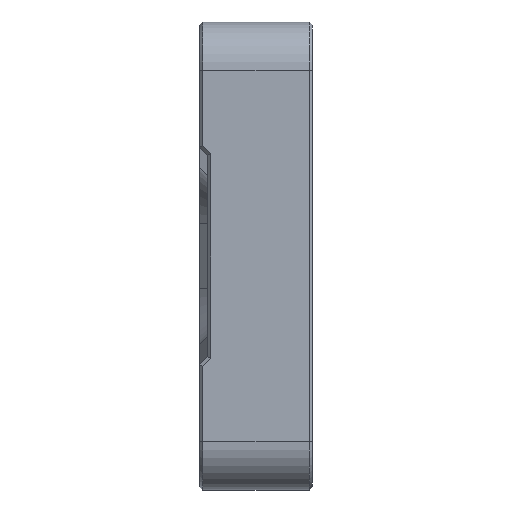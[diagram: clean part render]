
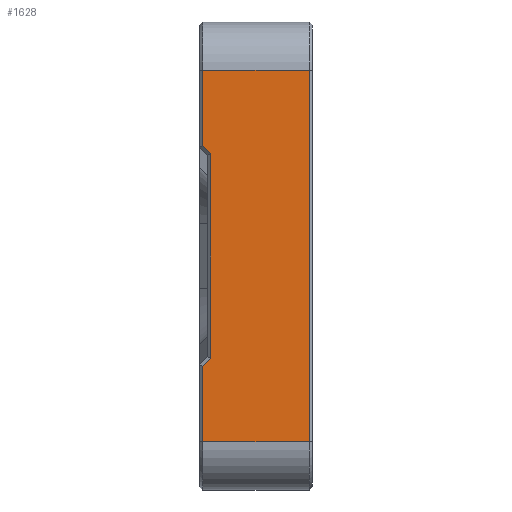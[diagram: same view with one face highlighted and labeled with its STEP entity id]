
A CAD part, left-side view. The second image highlights one B-rep face of the part: STEP entity #1628.
In plain terms, the highlighted planar face has unit normal (-1, 0, 0).
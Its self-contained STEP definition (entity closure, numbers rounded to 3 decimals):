
#13 = VERTEX_POINT ( 'NONE', #1379 ) ;
#120 = DIRECTION ( 'NONE',  ( 0., 0., -1. ) ) ;
#196 = CARTESIAN_POINT ( 'NONE',  ( 0., 6.8, 11.5 ) ) ;
#236 = DIRECTION ( 'NONE',  ( 0., 1., 0. ) ) ;
#337 = VERTEX_POINT ( 'NONE', #1485 ) ;
#365 = LINE ( 'NONE', #843, #1652 ) ;
#504 = LINE ( 'NONE', #1695, #2222 ) ;
#568 = DIRECTION ( 'NONE',  ( 0., -1., 0. ) ) ;
#718 = EDGE_CURVE ( 'NONE', #957, #13, #365, .T. ) ;
#745 = EDGE_CURVE ( 'NONE', #337, #2362, #2371, .T. ) ;
#760 = DIRECTION ( 'NONE',  ( 0., -0.706, -0.708 ) ) ;
#777 = CARTESIAN_POINT ( 'NONE',  ( 0., 7., -11.5 ) ) ;
#819 = LINE ( 'NONE', #777, #2356 ) ;
#821 = CARTESIAN_POINT ( 'NONE',  ( 0., 0.2, 11.5 ) ) ;
#843 = CARTESIAN_POINT ( 'NONE',  ( 0., 6.852, -6.899 ) ) ;
#844 = VERTEX_POINT ( 'NONE', #196 ) ;
#849 = CARTESIAN_POINT ( 'NONE',  ( 0., 6.3, 6.346 ) ) ;
#851 = ORIENTED_EDGE ( 'NONE', *, *, #745, .T. ) ;
#872 = ORIENTED_EDGE ( 'NONE', *, *, #1984, .T. ) ;
#924 = ORIENTED_EDGE ( 'NONE', *, *, #2138, .T. ) ;
#957 = VERTEX_POINT ( 'NONE', #1476 ) ;
#969 = CARTESIAN_POINT ( 'NONE',  ( 0., 6.8, 6.751 ) ) ;
#974 = VECTOR ( 'NONE', #2326, 1000. ) ;
#1008 = VERTEX_POINT ( 'NONE', #2885 ) ;
#1086 = ORIENTED_EDGE ( 'NONE', *, *, #1937, .T. ) ;
#1141 = EDGE_CURVE ( 'NONE', #1008, #337, #819, .T. ) ;
#1167 = DIRECTION ( 'NONE',  ( 0., 0., -1. ) ) ;
#1266 = FACE_OUTER_BOUND ( 'NONE', #2299, .T. ) ;
#1323 = LINE ( 'NONE', #2301, #3083 ) ;
#1358 = CARTESIAN_POINT ( 'NONE',  ( 0., 7., -14.5 ) ) ;
#1379 = CARTESIAN_POINT ( 'NONE',  ( 0., 6.8, -6.847 ) ) ;
#1390 = DIRECTION ( 'NONE',  ( 0., 0., -1. ) ) ;
#1476 = CARTESIAN_POINT ( 'NONE',  ( 0., 6.3, -6.346 ) ) ;
#1485 = CARTESIAN_POINT ( 'NONE',  ( 0., 0.2, -11.5 ) ) ;
#1532 = ORIENTED_EDGE ( 'NONE', *, *, #718, .T. ) ;
#1552 = DIRECTION ( 'NONE',  ( 0., 0.706, -0.708 ) ) ;
#1602 = VERTEX_POINT ( 'NONE', #2231 ) ;
#1624 = ORIENTED_EDGE ( 'NONE', *, *, #1949, .T. ) ;
#1628 = ADVANCED_FACE ( 'NONE', ( #1266 ), #2242, .F. ) ;
#1652 = VECTOR ( 'NONE', #1552, 1000. ) ;
#1670 = VECTOR ( 'NONE', #760, 1000. ) ;
#1695 = CARTESIAN_POINT ( 'NONE',  ( 0., 6.8, -11.5 ) ) ;
#1749 = VERTEX_POINT ( 'NONE', #849 ) ;
#1798 = EDGE_CURVE ( 'NONE', #2362, #844, #2344, .T. ) ;
#1937 = EDGE_CURVE ( 'NONE', #844, #1602, #2197, .T. ) ;
#1949 = EDGE_CURVE ( 'NONE', #13, #1008, #504, .T. ) ;
#1954 = ORIENTED_EDGE ( 'NONE', *, *, #1798, .T. ) ;
#1984 = EDGE_CURVE ( 'NONE', #1602, #1749, #2273, .T. ) ;
#2057 = VECTOR ( 'NONE', #236, 1000. ) ;
#2138 = EDGE_CURVE ( 'NONE', #1749, #957, #1323, .T. ) ;
#2168 = ORIENTED_EDGE ( 'NONE', *, *, #1141, .T. ) ;
#2197 = LINE ( 'NONE', #969, #2801 ) ;
#2222 = VECTOR ( 'NONE', #1167, 1000. ) ;
#2231 = CARTESIAN_POINT ( 'NONE',  ( 0., 6.8, 6.847 ) ) ;
#2242 = PLANE ( 'NONE',  #2986 ) ;
#2273 = LINE ( 'NONE', #2726, #1670 ) ;
#2299 = EDGE_LOOP ( 'NONE', ( #2168, #851, #1954, #1086, #872, #924, #1532, #1624 ) ) ;
#2301 = CARTESIAN_POINT ( 'NONE',  ( 0., 6.3, -14.5 ) ) ;
#2304 = CARTESIAN_POINT ( 'NONE',  ( 0., 7., 11.5 ) ) ;
#2326 = DIRECTION ( 'NONE',  ( 0., 0., 1. ) ) ;
#2344 = LINE ( 'NONE', #2304, #2057 ) ;
#2356 = VECTOR ( 'NONE', #568, 1000. ) ;
#2362 = VERTEX_POINT ( 'NONE', #821 ) ;
#2371 = LINE ( 'NONE', #2844, #974 ) ;
#2609 = DIRECTION ( 'NONE',  ( 0., 0., -1. ) ) ;
#2726 = CARTESIAN_POINT ( 'NONE',  ( 0., 6.352, 6.398 ) ) ;
#2801 = VECTOR ( 'NONE', #2609, 1000. ) ;
#2844 = CARTESIAN_POINT ( 'NONE',  ( 0., 0.2, -14.5 ) ) ;
#2885 = CARTESIAN_POINT ( 'NONE',  ( 0., 6.8, -11.5 ) ) ;
#2986 = AXIS2_PLACEMENT_3D ( 'NONE', #1358, #2997, #1390 ) ;
#2997 = DIRECTION ( 'NONE',  ( 1., 0., 0. ) ) ;
#3083 = VECTOR ( 'NONE', #120, 1000. ) ;
